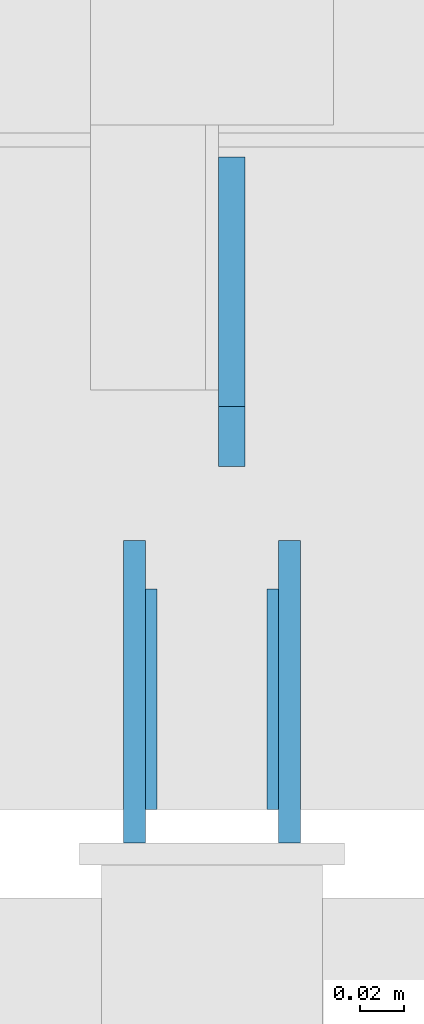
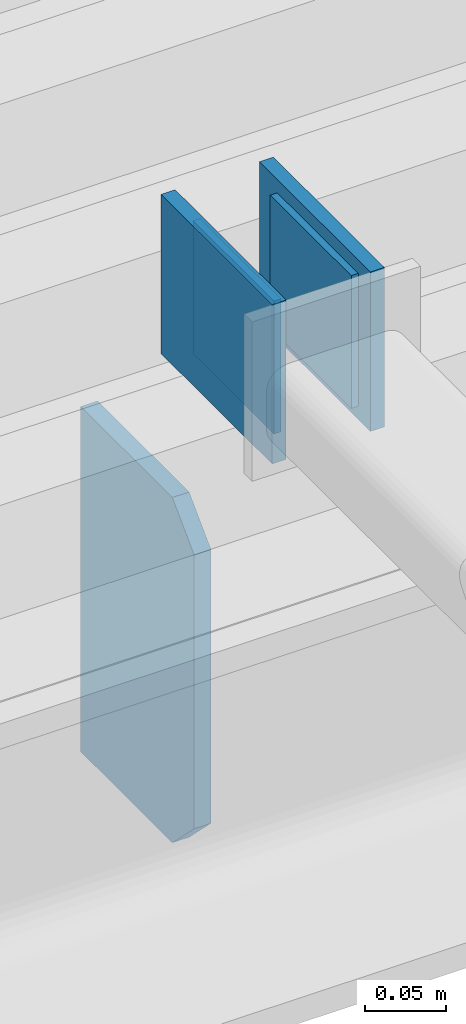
# One storey, part 16 of 34: 5 plates.
"""IFC2X3 building model written with IfcOpenShell, lengths in millimetres."""

from ifc_helpers import new_model, entity, si_unit, converted_unit, derived_unit, direction, frame, origin_with_axes, place, context, subcontext, project, spatial, polyline, outline, extrude, material, type_object, element, save


model = new_model("IFC2X3")

# Units and contexts
model_context = context("Model", 3, precision=0.01, world=frame((0.0, 4.29681676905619e-09, 0.0)), true_north=direction((4.01073788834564e-13, 1.0)))
plan_context = context("Plan", 3, precision=0.01, world=frame((0.0, 4.29681676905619e-09, 0.0)), true_north=direction((4.01073788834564e-13, 1.0)))
body_context = subcontext(model_context, "Body", "Model", "MODEL_VIEW")
ifc_project = project(units=[converted_unit("PLANEANGLEUNIT", "DEGREE", entity("IfcPositiveLengthMeasure", 0.0174532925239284), si_unit("PLANEANGLEUNIT", "RADIAN"), dimensions=[0, 0, 0, 0, 0, 0, 0]), si_unit("AREAUNIT", "SQUARE_METRE"), si_unit("LENGTHUNIT", "METRE", prefix="MILLI"), si_unit("MASSUNIT", "GRAM", prefix="KILO"), si_unit("POWERUNIT", "WATT"), si_unit("PRESSUREUNIT", "PASCAL"), si_unit("FORCEUNIT", "NEWTON", prefix="KILO"), si_unit("ELECTRICVOLTAGEUNIT", "VOLT"), si_unit("ELECTRICCURRENTUNIT", "AMPERE"), si_unit("THERMODYNAMICTEMPERATUREUNIT", "DEGREE_CELSIUS"), si_unit("TIMEUNIT", "SECOND"), si_unit("VOLUMEUNIT", "CUBIC_METRE"), derived_unit("LINEARVELOCITYUNIT", [(si_unit("LENGTHUNIT", "METRE"), 1), (si_unit("TIMEUNIT", "SECOND"), -1)]), derived_unit("VOLUMETRICFLOWRATEUNIT", [(si_unit("VOLUMEUNIT", "CUBIC_METRE"), 1), (si_unit("TIMEUNIT", "SECOND"), -1)]), derived_unit("THERMALTRANSMITTANCEUNIT", [(si_unit("POWERUNIT", "WATT"), 1), (si_unit("THERMODYNAMICTEMPERATUREUNIT", "KELVIN"), -1), (si_unit("AREAUNIT", "SQUARE_METRE"), -1)]), derived_unit("SOUNDPRESSUREUNIT", [(si_unit("PRESSUREUNIT", "PASCAL"), 1)])], contexts=[model_context, plan_context])

# Site, building, storey
site_placement = place(None, frame((0.0, -4.29681676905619e-09, 0.0), z_axis=(0.0, 0.0, 1.0), x_axis=(1.0, 0.0, 0.0)))
site = spatial("IfcSite", under=ifc_project, at=site_placement, Name="Gardermoen", CompositionType="ELEMENT")
building_placement = place(site_placement, frame((0.0, 4.29681676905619e-09, 0.0), z_axis=(0.0, 0.0, 1.0), x_axis=(1.0, 0.0, 0.0)))
building = spatial("IfcBuilding", under=site, at=building_placement, Name="TH", CompositionType="ELEMENT")
storey_placement = place(building_placement, origin_with_axes())
storey = spatial("IfcBuildingStorey", under=building, at=storey_placement, Name="F", CompositionType="ELEMENT", Elevation=0.0)

# Plates
ifc_material_1 = material(Name="STEEL/S355")
plate_type_1 = type_object("IfcPlateType", Name="PL12*140", PredefinedType="NOTDEFINED")
plate_placement = place(storey_placement, frame((910008.949781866, 485005.495625, 213167.0), z_axis=(1.0, 0.0, 0.0), x_axis=(0.0, 0.707106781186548, -0.707106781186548)))
element("IfcPlate", 1, at=plate_placement, inside=storey, type_object=plate_type_1, material=ifc_material_1, Name="STÅLBJELKE", ObjectType="PL12*140", context=body_context, shape_type="SweptSolid", body=[
    extrude(outline(polyline([(0.0, 0.0), (38.1837654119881, -5.82076609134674e-11), (118.086830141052, 79.9030685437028), (-65.7609252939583, 263.750823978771), (-145.664001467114, 183.847763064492), (-145.664001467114, 145.664001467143), (0.0, 0.0)])), frame((5.82076609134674e-11, 0.0, -6.0), z_axis=(0.0, 0.0, 1.0), x_axis=(1.0, 0.0, 0.0)), (0.0, 0.0, 1.0), 12.0),
])
plate_type_2 = type_object("IfcPlateType", Name="PL10*120", PredefinedType="NOTDEFINED")
for number, where, z_axis, x_axis in (
    (2, (909965.000000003, 484834.999999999, 213560.00092537), (1.0, 0.0, 0.0), (0.0, 1.0, 0.0)),
    (3, (910035.000000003, 484834.999999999, 213560.00092537), (1.0, 0.0, 0.0), (0.0, 1.0, 0.0)),
):
    element("IfcPlate", number, at=place(storey_placement, frame(where, z_axis=z_axis, x_axis=x_axis)), inside=storey, type_object=plate_type_2, material=ifc_material_1, Name="STÅLSPESIAL", ObjectType="PL10*120", context=body_context, shape_type="SweptSolid", body=[
        extrude(outline(polyline([(0.0, 0.0), (137.0, 2.91038304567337e-11), (137.0, 120.0), (0.0, 120.0), (0.0, 0.0)])), frame((0.0, 0.0, -5.0), z_axis=(0.0, 0.0, 1.0), x_axis=(1.0, 0.0, 0.0)), (0.0, 0.0, 1.0), 10.0),
    ])
ifc_material_2 = material(Name="STEEL/AISI304")
plate_type_3 = type_object("IfcPlateType", Name="PL5*100", PredefinedType="NOTDEFINED")
for number, where, z_axis, x_axis in (
    (4, (909972.500000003, 484849.999999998, 213570.00092537), (1.0, 0.0, 0.0), (0.0, 1.0, 0.0)),
    (5, (910027.500000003, 484849.999999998, 213570.00092537), (1.0, 0.0, 0.0), (0.0, 1.0, 0.0)),
):
    element("IfcPlate", number, at=place(storey_placement, frame(where, z_axis=z_axis, x_axis=x_axis)), inside=storey, type_object=plate_type_3, material=ifc_material_2, Name="STÅLMONTASJE", ObjectType="PL5*100", context=body_context, shape_type="SweptSolid", body=[
        extrude(outline(polyline([(0.0, 0.0), (100.0, -1.16415321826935e-10), (99.9999999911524, 100.0), (0.0, 100.0), (0.0, 0.0)])), frame((0.0, 0.0, -2.5), z_axis=(0.0, 0.0, 1.0), x_axis=(1.0, 0.0, 0.0)), (0.0, 0.0, 1.0), 5.0),
    ])

save(model, "model.ifc")
